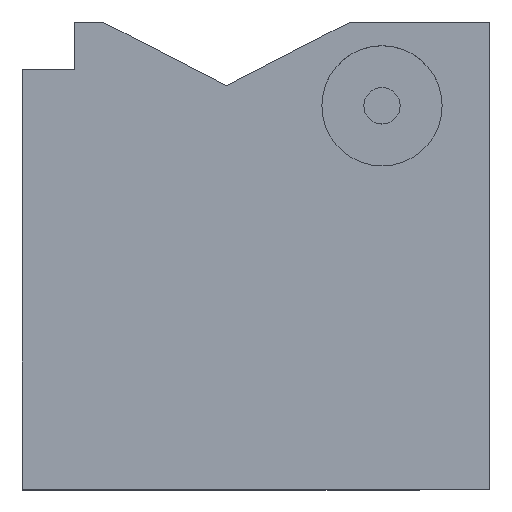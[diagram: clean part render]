
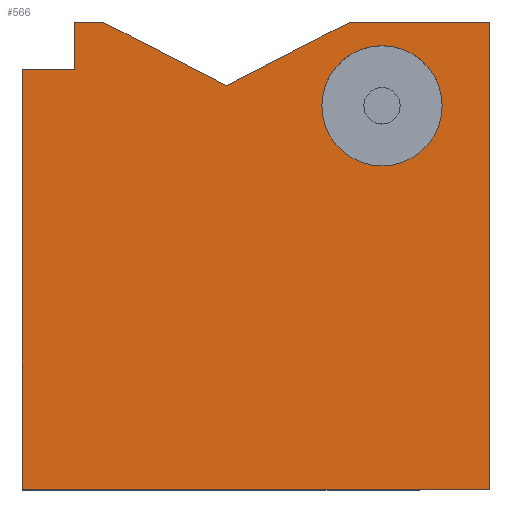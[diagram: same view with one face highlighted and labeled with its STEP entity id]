
A CAD part, top view. The second image highlights one B-rep face of the part: STEP entity #566.
In plain terms, the highlighted planar face has unit normal (0, 0, 1).
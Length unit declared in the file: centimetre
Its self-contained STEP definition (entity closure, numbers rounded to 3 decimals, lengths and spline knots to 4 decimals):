
#2 = CARTESIAN_POINT ( 'NONE',  ( 111.3068, 1000., 1000. ) ) ;
#23 = VECTOR ( 'NONE', #782, 100. ) ;
#49 = ORIENTED_EDGE ( 'NONE', *, *, #704, .T. ) ;
#61 = CARTESIAN_POINT ( 'NONE',  ( 769.6812, 820.6121, 1000. ) ) ;
#66 = ORIENTED_EDGE ( 'NONE', *, *, #517, .F. ) ;
#67 = CARTESIAN_POINT ( 'NONE',  ( 0., 0., 1000. ) ) ;
#99 = FACE_OUTER_BOUND ( 'NONE', #501, .T. ) ;
#123 = EDGE_CURVE ( 'NONE', #849, #439, #187, .T. ) ;
#125 = ORIENTED_EDGE ( 'NONE', *, *, #652, .T. ) ;
#136 = LINE ( 'NONE', #1068, #1032 ) ;
#175 = VECTOR ( 'NONE', #805, 100. ) ;
#187 = LINE ( 'NONE', #1041, #1001 ) ;
#194 = VECTOR ( 'NONE', #440, 100. ) ;
#204 = DIRECTION ( 'NONE',  ( 1., 0., 0. ) ) ;
#210 = VECTOR ( 'NONE', #631, 100. ) ;
#212 = VERTEX_POINT ( 'NONE', #1146 ) ;
#220 = CARTESIAN_POINT ( 'NONE',  ( 898.4316, 820.6121, 1000. ) ) ;
#229 = AXIS2_PLACEMENT_3D ( 'NONE', #61, #537, #823 ) ;
#230 = EDGE_CURVE ( 'NONE', #1239, #1205, #585, .T. ) ;
#231 = VERTEX_POINT ( 'NONE', #291 ) ;
#271 = CARTESIAN_POINT ( 'NONE',  ( 172.2846, 1000., 1000. ) ) ;
#278 = LINE ( 'NONE', #669, #175 ) ;
#291 = CARTESIAN_POINT ( 'NONE',  ( 0., 898.1607, 1000. ) ) ;
#293 = VERTEX_POINT ( 'NONE', #319 ) ;
#301 = VERTEX_POINT ( 'NONE', #220 ) ;
#319 = CARTESIAN_POINT ( 'NONE',  ( 1000., 1000., 1000. ) ) ;
#365 = LINE ( 'NONE', #271, #1191 ) ;
#378 = DIRECTION ( 'NONE',  ( 0., 0., 1. ) ) ;
#434 = CARTESIAN_POINT ( 'NONE',  ( 436.8348, 863.6799, 1000. ) ) ;
#439 = VERTEX_POINT ( 'NONE', #990 ) ;
#440 = DIRECTION ( 'NONE',  ( 0., 1., 0. ) ) ;
#457 = ORIENTED_EDGE ( 'NONE', *, *, #771, .T. ) ;
#492 = AXIS2_PLACEMENT_3D ( 'NONE', #579, #378, #204 ) ;
#498 = LINE ( 'NONE', #640, #194 ) ;
#501 = EDGE_LOOP ( 'NONE', ( #1229, #125, #1016, #457, #954, #502, #66, #49, #798 ) ) ;
#502 = ORIENTED_EDGE ( 'NONE', *, *, #1013, .F. ) ;
#517 = EDGE_CURVE ( 'NONE', #1070, #1089, #365, .T. ) ;
#524 = DIRECTION ( 'NONE',  ( -1., 0., 0. ) ) ;
#531 = LINE ( 'NONE', #434, #578 ) ;
#537 = DIRECTION ( 'NONE',  ( 0., 0., 1. ) ) ;
#564 = DIRECTION ( 'NONE',  ( 0.889, -0.458, 0. ) ) ;
#566 = ADVANCED_FACE ( 'NONE', ( #99, #1059 ), #1064, .T. ) ;
#567 = ORIENTED_EDGE ( 'NONE', *, *, #784, .F. ) ;
#578 = VECTOR ( 'NONE', #1105, 100. ) ;
#579 = CARTESIAN_POINT ( 'NONE',  ( 0., 0., 1000. ) ) ;
#585 = LINE ( 'NONE', #2, #23 ) ;
#602 = LINE ( 'NONE', #1188, #1033 ) ;
#603 = EDGE_LOOP ( 'NONE', ( #1199, #567 ) ) ;
#618 = CARTESIAN_POINT ( 'NONE',  ( 769.6812, 820.6121, 1000. ) ) ;
#631 = DIRECTION ( 'NONE',  ( -1., 0., 0. ) ) ;
#640 = CARTESIAN_POINT ( 'NONE',  ( 1000., 1000., 1000. ) ) ;
#652 = EDGE_CURVE ( 'NONE', #231, #849, #278, .T. ) ;
#669 = CARTESIAN_POINT ( 'NONE',  ( 0., 1000., 1000. ) ) ;
#696 = CIRCLE ( 'NONE', #229, 128.7503 ) ;
#704 = EDGE_CURVE ( 'NONE', #1070, #1205, #136, .T. ) ;
#737 = CARTESIAN_POINT ( 'NONE',  ( 111.3068, 1000., 1000. ) ) ;
#771 = EDGE_CURVE ( 'NONE', #439, #293, #498, .T. ) ;
#782 = DIRECTION ( 'NONE',  ( 0., 1., 0. ) ) ;
#784 = EDGE_CURVE ( 'NONE', #212, #301, #696, .T. ) ;
#797 = DIRECTION ( 'NONE',  ( -1., 0., 0. ) ) ;
#798 = ORIENTED_EDGE ( 'NONE', *, *, #230, .F. ) ;
#805 = DIRECTION ( 'NONE',  ( 0., -1., 0. ) ) ;
#823 = DIRECTION ( 'NONE',  ( 1., 0., 0. ) ) ;
#833 = CIRCLE ( 'NONE', #966, 128.7503 ) ;
#839 = CARTESIAN_POINT ( 'NONE',  ( 701.385, 1000., 1000. ) ) ;
#843 = DIRECTION ( 'NONE',  ( 1., 0., 0. ) ) ;
#849 = VERTEX_POINT ( 'NONE', #67 ) ;
#854 = VERTEX_POINT ( 'NONE', #839 ) ;
#918 = CARTESIAN_POINT ( 'NONE',  ( 111.3068, 898.1607, 1000. ) ) ;
#954 = ORIENTED_EDGE ( 'NONE', *, *, #1045, .T. ) ;
#966 = AXIS2_PLACEMENT_3D ( 'NONE', #618, #1169, #992 ) ;
#990 = CARTESIAN_POINT ( 'NONE',  ( 1000., 0., 1000. ) ) ;
#992 = DIRECTION ( 'NONE',  ( 1., 0., 0. ) ) ;
#1001 = VECTOR ( 'NONE', #843, 100. ) ;
#1013 = EDGE_CURVE ( 'NONE', #1089, #854, #531, .T. ) ;
#1014 = LINE ( 'NONE', #1221, #210 ) ;
#1016 = ORIENTED_EDGE ( 'NONE', *, *, #123, .T. ) ;
#1032 = VECTOR ( 'NONE', #524, 100. ) ;
#1033 = VECTOR ( 'NONE', #797, 100. ) ;
#1041 = CARTESIAN_POINT ( 'NONE',  ( 0., 0., 1000. ) ) ;
#1045 = EDGE_CURVE ( 'NONE', #293, #854, #602, .T. ) ;
#1059 = FACE_BOUND ( 'NONE', #603, .T. ) ;
#1063 = EDGE_CURVE ( 'NONE', #301, #212, #833, .T. ) ;
#1064 = PLANE ( 'NONE',  #492 ) ;
#1068 = CARTESIAN_POINT ( 'NONE',  ( 0., 1000., 1000. ) ) ;
#1070 = VERTEX_POINT ( 'NONE', #1184 ) ;
#1089 = VERTEX_POINT ( 'NONE', #1177 ) ;
#1105 = DIRECTION ( 'NONE',  ( 0.889, 0.458, 0. ) ) ;
#1146 = CARTESIAN_POINT ( 'NONE',  ( 640.9309, 820.6121, 1000. ) ) ;
#1169 = DIRECTION ( 'NONE',  ( 0., 0., 1. ) ) ;
#1177 = CARTESIAN_POINT ( 'NONE',  ( 436.8348, 863.6799, 1000. ) ) ;
#1180 = EDGE_CURVE ( 'NONE', #1239, #231, #1014, .T. ) ;
#1184 = CARTESIAN_POINT ( 'NONE',  ( 172.2846, 1000., 1000. ) ) ;
#1188 = CARTESIAN_POINT ( 'NONE',  ( 0., 1000., 1000. ) ) ;
#1191 = VECTOR ( 'NONE', #564, 100. ) ;
#1199 = ORIENTED_EDGE ( 'NONE', *, *, #1063, .F. ) ;
#1205 = VERTEX_POINT ( 'NONE', #737 ) ;
#1221 = CARTESIAN_POINT ( 'NONE',  ( 111.3068, 898.1607, 1000. ) ) ;
#1229 = ORIENTED_EDGE ( 'NONE', *, *, #1180, .T. ) ;
#1239 = VERTEX_POINT ( 'NONE', #918 ) ;
